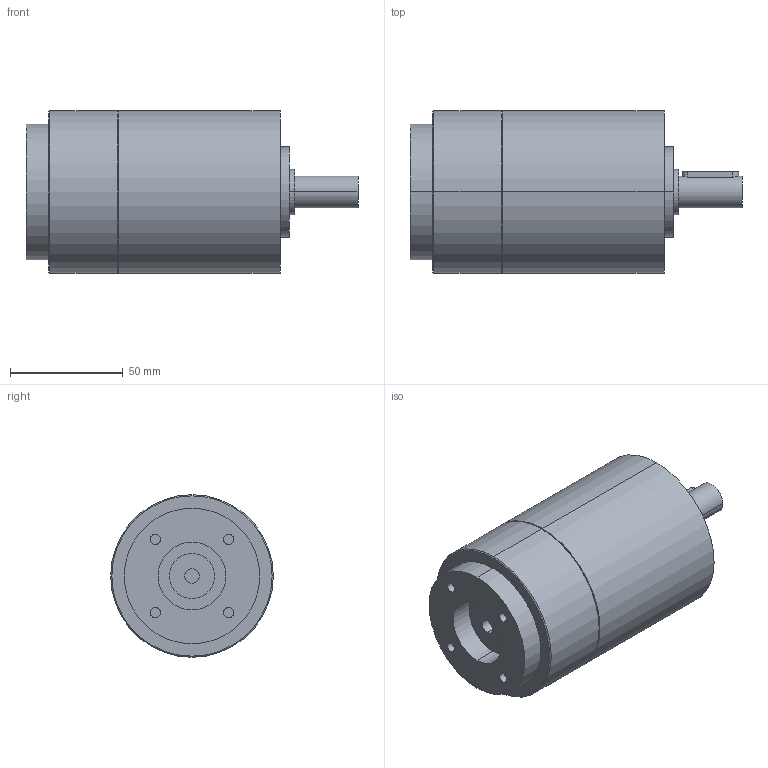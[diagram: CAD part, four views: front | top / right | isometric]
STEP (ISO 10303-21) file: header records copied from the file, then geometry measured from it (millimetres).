
FILE_DESCRIPTION(('CoCreate Modeling STEP Export'),'2;1');
FILE_NAME('GPT75_ig-9-12-16-20-25-28-35-40-50-70-100_14_B14T_6.35_P21.stp','2014-08-27T13:19:29',(''),(''),'CoCreate Modeling STEP processor for AP214 (Solid Model)','CoCreate Modeling 16.00C 25-Feb-2009 (C) Parametric Technology GmbH','');
FILE_SCHEMA(('AUTOMOTIVE_DESIGN { 1 0 10303 214 1 1 1 1 }'));
Length unit declared in the file: millimetre
Products named in the file (2): GPT75_ig-9-12-16-20-25-28-35-40-50-70-100_14_B14T_6.35_P21
Assembly tree (1 placements, depth 2):
  GPT75_ig-9-12-16-20-25-28-35-40-50-70-100_14_B14T_6.35_P21
    GPT75_ig-9-12-16-20-25-28-35-40-50-70-100_14_B14T_6.35_P21
Bounding box: 147 x 72 x 72 mm (x, y, z)
Volume: 447286.5 mm3; surface area: 38509.6 mm2
Topology: 1 solids, 1 shells, 64 faces, 142 edges, 97 vertices
Faces by surface type: cylinder 38, plane 22, cone 4
Entity records: 1878 total; most frequent: CARTESIAN_POINT 614, ORIENTED_EDGE 284, DIRECTION 210, EDGE_CURVE 142, VERTEX_POINT 97, AXIS2_PLACEMENT_3D 81, EDGE_LOOP 81, FACE_OUTER_BOUND 64
